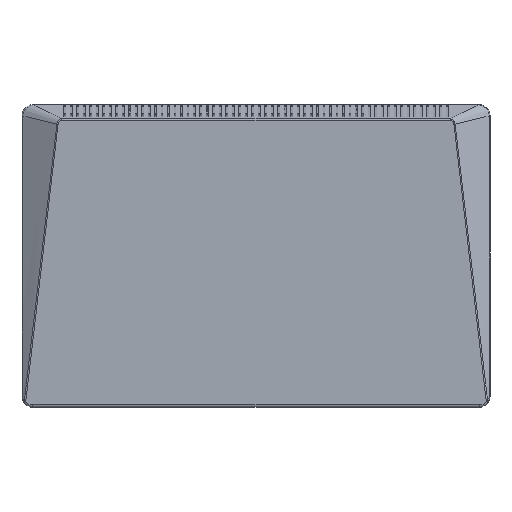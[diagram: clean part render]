
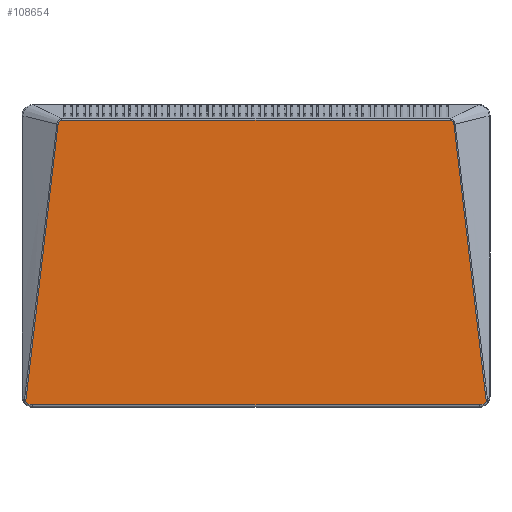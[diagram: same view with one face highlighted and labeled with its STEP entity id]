
A CAD part, top view. The second image highlights one B-rep face of the part: STEP entity #108654.
In plain terms, the highlighted planar face has unit normal (0, 0, 1).
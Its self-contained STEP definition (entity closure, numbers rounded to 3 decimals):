
#108654 = ADVANCED_FACE('',(#108655),#108800,.T.);
#108655 = FACE_BOUND('',#108656,.F.);
#108656 = EDGE_LOOP('',(#108657,#108695,#108715,#108723,#108743,#108776,
    #108785,#108793));
#108657 = ORIENTED_EDGE('',*,*,#108658,.F.);
#108658 = EDGE_CURVE('',#108659,#108661,#108663,.T.);
#108659 = VERTEX_POINT('',#108660);
#108660 = CARTESIAN_POINT('',(-274.95,182.919,52.));
#108661 = VERTEX_POINT('',#108662);
#108662 = CARTESIAN_POINT('',(-319.778,-201.956,52.));
#108663 = B_SPLINE_CURVE_WITH_KNOTS('',3,(#108664,#108665,#108666,
    #108667,#108668,#108669,#108670,#108671,#108672,#108673,#108674,
    #108675,#108676,#108677,#108678,#108679,#108680,#108681,#108682,
    #108683,#108684,#108685,#108686,#108687,#108688,#108689,#108690,
    #108691,#108692,#108693,#108694),.UNSPECIFIED.,.F.,.F.,(4,1,1,1,1,1,
    1,1,1,1,1,1,1,1,1,1,1,1,1,1,1,1,1,1,1,1,1,1,4),(0.,
    0.036,0.071,0.107,0.143,
    0.179,0.214,0.25,0.286,0.321,
    0.357,0.393,0.429,0.464,0.5,
    0.536,0.571,0.607,0.643,
    0.679,0.714,0.75,0.786,0.821,
    0.857,0.893,0.929,0.964,1.),
  .UNSPECIFIED.);
#108664 = CARTESIAN_POINT('',(-274.95,182.919,52.));
#108665 = CARTESIAN_POINT('',(-276.437,170.221,52.));
#108666 = CARTESIAN_POINT('',(-279.285,145.896,52.));
#108667 = CARTESIAN_POINT('',(-283.183,112.601,52.));
#108668 = CARTESIAN_POINT('',(-286.699,82.558,52.));
#108669 = CARTESIAN_POINT('',(-289.914,55.084,52.));
#108670 = CARTESIAN_POINT('',(-292.869,29.83,52.));
#108671 = CARTESIAN_POINT('',(-295.583,6.634,52.));
#108672 = CARTESIAN_POINT('',(-298.063,-14.578,52.));
#108673 = CARTESIAN_POINT('',(-300.321,-33.89,52.));
#108674 = CARTESIAN_POINT('',(-302.365,-51.377,52.));
#108675 = CARTESIAN_POINT('',(-304.206,-67.141,52.));
#108676 = CARTESIAN_POINT('',(-305.864,-81.346,52.));
#108677 = CARTESIAN_POINT('',(-307.361,-94.175,52.));
#108678 = CARTESIAN_POINT('',(-308.716,-105.796,52.));
#108679 = CARTESIAN_POINT('',(-309.947,-116.358,52.));
#108680 = CARTESIAN_POINT('',(-311.069,-126.002,52.));
#108681 = CARTESIAN_POINT('',(-312.1,-134.871,52.));
#108682 = CARTESIAN_POINT('',(-313.052,-143.074,52.));
#108683 = CARTESIAN_POINT('',(-313.929,-150.638,52.));
#108684 = CARTESIAN_POINT('',(-314.727,-157.544,52.));
#108685 = CARTESIAN_POINT('',(-315.452,-163.824,52.));
#108686 = CARTESIAN_POINT('',(-316.118,-169.603,52.));
#108687 = CARTESIAN_POINT('',(-316.748,-175.097,52.));
#108688 = CARTESIAN_POINT('',(-317.367,-180.505,52.));
#108689 = CARTESIAN_POINT('',(-317.963,-185.739,52.));
#108690 = CARTESIAN_POINT('',(-318.506,-190.54,52.));
#108691 = CARTESIAN_POINT('',(-318.986,-194.811,52.));
#108692 = CARTESIAN_POINT('',(-319.409,-198.607,52.));
#108693 = CARTESIAN_POINT('',(-319.66,-200.886,52.));
#108694 = CARTESIAN_POINT('',(-319.778,-201.956,52.));
#108695 = ORIENTED_EDGE('',*,*,#108696,.F.);
#108696 = EDGE_CURVE('',#108697,#108659,#108699,.T.);
#108697 = VERTEX_POINT('',#108698);
#108698 = CARTESIAN_POINT('',(-269.742,188.259,52.));
#108699 = B_SPLINE_CURVE_WITH_KNOTS('',3,(#108700,#108701,#108702,
    #108703,#108704,#108705,#108706,#108707,#108708,#108709,#108710,
    #108711,#108712,#108713,#108714),.UNSPECIFIED.,.F.,.F.,(4,1,1,1,1,1,
    1,1,1,1,1,1,4),(0.,0.083,0.167,0.25,
    0.333,0.417,0.5,0.583,0.667,0.75
    ,0.833,0.917,1.),.UNSPECIFIED.);
#108700 = CARTESIAN_POINT('',(-269.742,188.259,52.));
#108701 = CARTESIAN_POINT('',(-269.861,188.259,52.));
#108702 = CARTESIAN_POINT('',(-270.114,188.244,52.));
#108703 = CARTESIAN_POINT('',(-270.537,188.173,52.));
#108704 = CARTESIAN_POINT('',(-271.015,188.039,52.));
#108705 = CARTESIAN_POINT('',(-271.529,187.833,52.));
#108706 = CARTESIAN_POINT('',(-272.075,187.54,52.));
#108707 = CARTESIAN_POINT('',(-272.642,187.145,52.));
#108708 = CARTESIAN_POINT('',(-273.216,186.629,52.));
#108709 = CARTESIAN_POINT('',(-273.764,185.985,52.));
#108710 = CARTESIAN_POINT('',(-274.222,185.263,52.));
#108711 = CARTESIAN_POINT('',(-274.553,184.551,52.));
#108712 = CARTESIAN_POINT('',(-274.801,183.806,52.));
#108713 = CARTESIAN_POINT('',(-274.914,183.225,52.));
#108714 = CARTESIAN_POINT('',(-274.95,182.919,52.));
#108715 = ORIENTED_EDGE('',*,*,#108716,.F.);
#108716 = EDGE_CURVE('',#108717,#108697,#108719,.T.);
#108717 = VERTEX_POINT('',#108718);
#108718 = CARTESIAN_POINT('',(269.742,188.259,52.));
#108719 = LINE('',#108720,#108721);
#108720 = CARTESIAN_POINT('',(269.742,188.259,52.));
#108721 = VECTOR('',#108722,1.);
#108722 = DIRECTION('',(-1.,0.,0.));
#108723 = ORIENTED_EDGE('',*,*,#108724,.F.);
#108724 = EDGE_CURVE('',#108725,#108717,#108727,.T.);
#108725 = VERTEX_POINT('',#108726);
#108726 = CARTESIAN_POINT('',(274.95,182.919,52.));
#108727 = B_SPLINE_CURVE_WITH_KNOTS('',3,(#108728,#108729,#108730,
    #108731,#108732,#108733,#108734,#108735,#108736,#108737,#108738,
    #108739,#108740,#108741,#108742),.UNSPECIFIED.,.F.,.F.,(4,1,1,1,1,1,
    1,1,1,1,1,1,4),(0.,0.083,0.167,0.25,
    0.333,0.417,0.5,0.583,0.667,0.75
    ,0.833,0.917,1.),.UNSPECIFIED.);
#108728 = CARTESIAN_POINT('',(274.95,182.919,52.));
#108729 = CARTESIAN_POINT('',(274.906,183.294,52.));
#108730 = CARTESIAN_POINT('',(274.758,183.993,52.));
#108731 = CARTESIAN_POINT('',(274.412,184.896,52.));
#108732 = CARTESIAN_POINT('',(273.988,185.658,52.));
#108733 = CARTESIAN_POINT('',(273.515,186.293,52.));
#108734 = CARTESIAN_POINT('',(273.019,186.815,52.));
#108735 = CARTESIAN_POINT('',(272.516,187.237,52.));
#108736 = CARTESIAN_POINT('',(272.02,187.57,52.));
#108737 = CARTESIAN_POINT('',(271.538,187.827,52.));
#108738 = CARTESIAN_POINT('',(271.084,188.013,52.));
#108739 = CARTESIAN_POINT('',(270.659,188.143,52.));
#108740 = CARTESIAN_POINT('',(270.222,188.232,52.));
#108741 = CARTESIAN_POINT('',(269.906,188.259,52.));
#108742 = CARTESIAN_POINT('',(269.742,188.259,52.));
#108743 = ORIENTED_EDGE('',*,*,#108744,.F.);
#108744 = EDGE_CURVE('',#108745,#108725,#108747,.T.);
#108745 = VERTEX_POINT('',#108746);
#108746 = CARTESIAN_POINT('',(319.778,-201.956,52.));
#108747 = B_SPLINE_CURVE_WITH_KNOTS('',3,(#108748,#108749,#108750,
    #108751,#108752,#108753,#108754,#108755,#108756,#108757,#108758,
    #108759,#108760,#108761,#108762,#108763,#108764,#108765,#108766,
    #108767,#108768,#108769,#108770,#108771,#108772,#108773,#108774,
    #108775),.UNSPECIFIED.,.F.,.F.,(4,1,1,1,1,1,1,1,1,1,1,1,1,1,1,1,1,1,
    1,1,1,1,1,1,1,4),(0.,0.04,0.08,0.12,0.16,0.2,0.24,0.28,0.32,0.36
    ,0.4,0.44,0.48,0.52,0.56,0.6,0.64,0.68,0.72,0.76,0.8,0.84,0.88,0.92,
    0.96,1.),.QUASI_UNIFORM_KNOTS.);
#108748 = CARTESIAN_POINT('',(319.778,-201.956,52.));
#108749 = CARTESIAN_POINT('',(319.635,-200.654,52.));
#108750 = CARTESIAN_POINT('',(319.326,-197.859,52.));
#108751 = CARTESIAN_POINT('',(318.788,-193.043,52.));
#108752 = CARTESIAN_POINT('',(318.194,-187.775,52.));
#108753 = CARTESIAN_POINT('',(317.585,-182.42,52.));
#108754 = CARTESIAN_POINT('',(316.953,-176.881,52.));
#108755 = CARTESIAN_POINT('',(316.261,-170.848,52.));
#108756 = CARTESIAN_POINT('',(315.487,-164.12,52.));
#108757 = CARTESIAN_POINT('',(314.627,-156.674,52.));
#108758 = CARTESIAN_POINT('',(313.689,-148.566,52.));
#108759 = CARTESIAN_POINT('',(312.665,-139.74,52.));
#108760 = CARTESIAN_POINT('',(311.54,-130.057,52.));
#108761 = CARTESIAN_POINT('',(310.297,-119.37,52.));
#108762 = CARTESIAN_POINT('',(308.916,-107.51,52.));
#108763 = CARTESIAN_POINT('',(307.364,-94.199,52.));
#108764 = CARTESIAN_POINT('',(305.599,-79.072,52.));
#108765 = CARTESIAN_POINT('',(303.597,-61.922,52.));
#108766 = CARTESIAN_POINT('',(301.374,-42.895,52.));
#108767 = CARTESIAN_POINT('',(298.952,-22.178,52.));
#108768 = CARTESIAN_POINT('',(296.341,0.146,52.));
#108769 = CARTESIAN_POINT('',(293.526,24.218,52.));
#108770 = CARTESIAN_POINT('',(290.478,50.266,52.));
#108771 = CARTESIAN_POINT('',(287.117,78.985,52.));
#108772 = CARTESIAN_POINT('',(283.409,110.662,52.));
#108773 = CARTESIAN_POINT('',(279.368,145.183,52.));
#108774 = CARTESIAN_POINT('',(276.459,170.031,52.));
#108775 = CARTESIAN_POINT('',(274.95,182.919,52.));
#108776 = ORIENTED_EDGE('',*,*,#108777,.F.);
#108777 = EDGE_CURVE('',#108778,#108745,#108780,.T.);
#108778 = VERTEX_POINT('',#108779);
#108779 = CARTESIAN_POINT('',(310.,-207.,52.));
#108780 = CIRCLE('',#108781,12.);
#108781 = AXIS2_PLACEMENT_3D('',#108782,#108783,#108784);
#108782 = CARTESIAN_POINT('',(310.,-195.,52.));
#108783 = DIRECTION('',(0.,0.,1.));
#108784 = DIRECTION('',(0.,-1.,0.));
#108785 = ORIENTED_EDGE('',*,*,#108786,.F.);
#108786 = EDGE_CURVE('',#108787,#108778,#108789,.T.);
#108787 = VERTEX_POINT('',#108788);
#108788 = CARTESIAN_POINT('',(-310.,-207.,52.));
#108789 = LINE('',#108790,#108791);
#108790 = CARTESIAN_POINT('',(-310.,-207.,52.));
#108791 = VECTOR('',#108792,1.);
#108792 = DIRECTION('',(1.,0.,0.));
#108793 = ORIENTED_EDGE('',*,*,#108794,.F.);
#108794 = EDGE_CURVE('',#108661,#108787,#108795,.T.);
#108795 = CIRCLE('',#108796,12.);
#108796 = AXIS2_PLACEMENT_3D('',#108797,#108798,#108799);
#108797 = CARTESIAN_POINT('',(-310.,-195.,52.));
#108798 = DIRECTION('',(0.,0.,1.));
#108799 = DIRECTION('',(-0.815,-0.58,0.));
#108800 = PLANE('',#108801);
#108801 = AXIS2_PLACEMENT_3D('',#108802,#108803,#108804);
#108802 = CARTESIAN_POINT('',(0.,0.,52.));
#108803 = DIRECTION('',(0.,0.,1.));
#108804 = DIRECTION('',(1.,0.,-0.));
